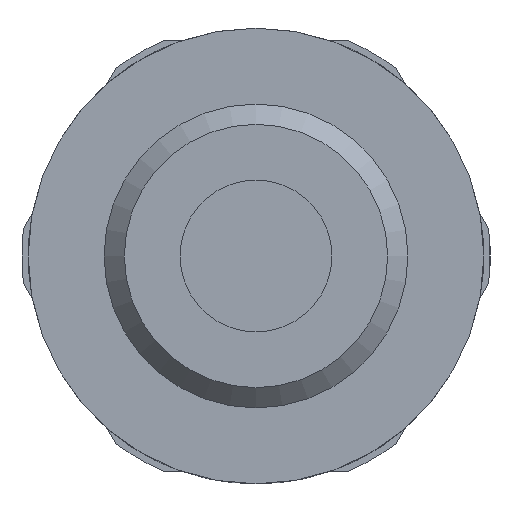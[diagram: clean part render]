
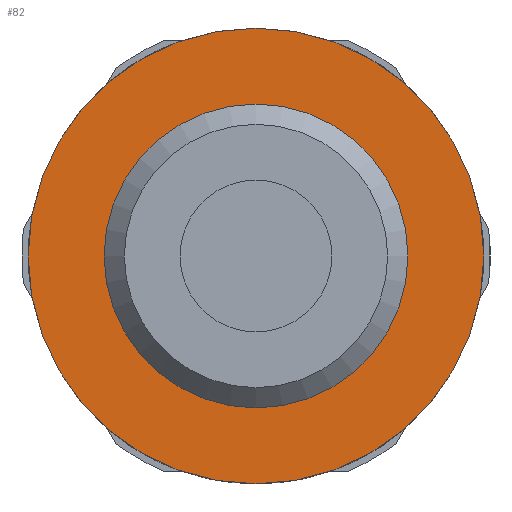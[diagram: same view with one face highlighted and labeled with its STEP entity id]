
A CAD part, front view. The second image highlights one B-rep face of the part: STEP entity #82.
In plain terms, the highlighted planar face has unit normal (0, -1, 0).
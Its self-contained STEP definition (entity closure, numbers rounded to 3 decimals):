
#82 = ADVANCED_FACE( '', ( #137, #138 ), #139, .F. );
#137 = FACE_BOUND( '', #234, .T. );
#138 = FACE_OUTER_BOUND( '', #235, .T. );
#139 = PLANE( '', #236 );
#234 = EDGE_LOOP( '', ( #354 ) );
#235 = EDGE_LOOP( '', ( #355 ) );
#236 = AXIS2_PLACEMENT_3D( '', #356, #357, #358 );
#354 = ORIENTED_EDGE( '', *, *, #622, .F. );
#355 = ORIENTED_EDGE( '', *, *, #623, .T. );
#356 = CARTESIAN_POINT( '', ( 9., 0., 0. ) );
#357 = DIRECTION( '', ( 0., 1., 0. ) );
#358 = DIRECTION( '', ( 0., 0., 1. ) );
#622 = EDGE_CURVE( '', #718, #718, #719, .T. );
#623 = EDGE_CURVE( '', #720, #720, #721, .T. );
#718 = VERTEX_POINT( '', #866 );
#719 = CIRCLE( '', #867, 6. );
#720 = VERTEX_POINT( '', #868 );
#721 = CIRCLE( '', #869, 9. );
#866 = CARTESIAN_POINT( '', ( 0., 0., -6. ) );
#867 = AXIS2_PLACEMENT_3D( '', #1057, #1058, #1059 );
#868 = CARTESIAN_POINT( '', ( 0., 0., -9. ) );
#869 = AXIS2_PLACEMENT_3D( '', #1060, #1061, #1062 );
#1057 = CARTESIAN_POINT( '', ( 0., 0., 0. ) );
#1058 = DIRECTION( '', ( 0., -1., 0. ) );
#1059 = DIRECTION( '', ( 0., 0., -1. ) );
#1060 = CARTESIAN_POINT( '', ( 0., 0., 0. ) );
#1061 = DIRECTION( '', ( 0., -1., 0. ) );
#1062 = DIRECTION( '', ( 0., 0., -1. ) );
